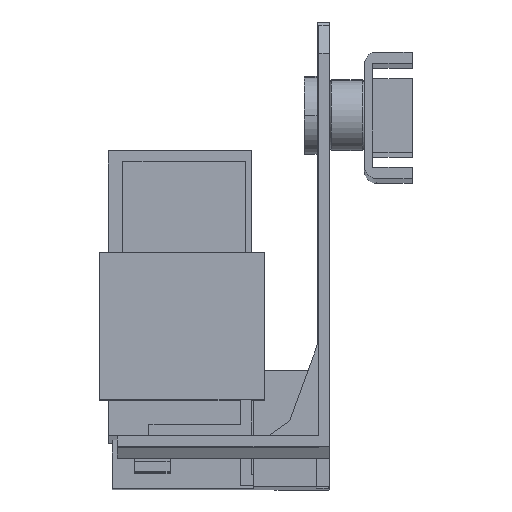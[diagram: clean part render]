
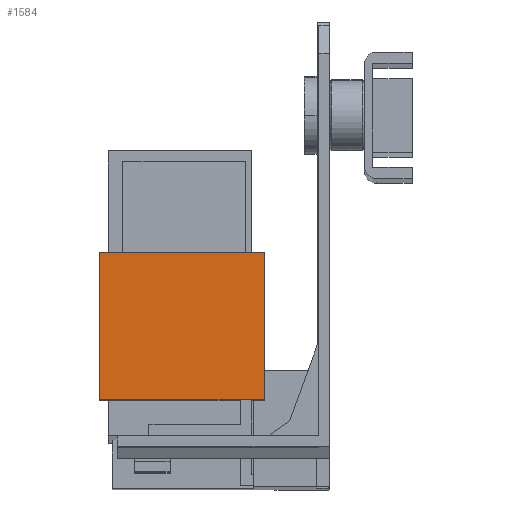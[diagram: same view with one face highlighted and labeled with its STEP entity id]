
A CAD part, front view. The second image highlights one B-rep face of the part: STEP entity #1584.
In plain terms, the highlighted planar face has unit normal (0, -1, 0.003).
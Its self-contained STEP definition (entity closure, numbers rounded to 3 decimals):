
#140 = AXIS2_PLACEMENT_3D ( 'NONE', #6418, #6424, #6425 ) ;
#1021 = EDGE_CURVE ( 'NONE', #7275, #9484, #8394, .T. ) ;
#1074 = EDGE_CURVE ( 'NONE', #9484, #9434, #8478, .T. ) ;
#1120 = EDGE_CURVE ( 'NONE', #9485, #9434, #8544, .T. ) ;
#1367 = EDGE_CURVE ( 'NONE', #7275, #9485, #3145, .T. ) ;
#1584 = ADVANCED_FACE ( 'NONE', ( #3524 ), #6415, .T. ) ;
#3145 = LINE ( 'NONE', #5681, #3148 ) ;
#3148 = VECTOR ( 'NONE', #5682, 1000. ) ;
#3524 = FACE_OUTER_BOUND ( 'NONE', #7638, .T. ) ;
#4968 = CARTESIAN_POINT ( 'NONE',  ( -9.3, -29.009, -40.322 ) ) ;
#4969 = DIRECTION ( 'NONE',  ( -1., 0., 0. ) ) ;
#5067 = CARTESIAN_POINT ( 'NONE',  ( -32.7, -29.009, -40.322 ) ) ;
#5068 = DIRECTION ( 'NONE',  ( 0., 0.003, 1. ) ) ;
#5169 = CARTESIAN_POINT ( 'NONE',  ( -9.3, -28.952, -19.322 ) ) ;
#5170 = DIRECTION ( 'NONE',  ( -1., 0., 0. ) ) ;
#5681 = CARTESIAN_POINT ( 'NONE',  ( -9.3, -29.009, -40.322 ) ) ;
#5682 = DIRECTION ( 'NONE',  ( 0., 0.003, 1. ) ) ;
#6415 = PLANE ( 'NONE',  #140 ) ;
#6418 = CARTESIAN_POINT ( 'NONE',  ( -9.3, -29.009, -40.322 ) ) ;
#6424 = DIRECTION ( 'NONE',  ( 0., -1., 0.003 ) ) ;
#6425 = DIRECTION ( 'NONE',  ( 1., 0., 0. ) ) ;
#6952 = CARTESIAN_POINT ( 'NONE',  ( -9.3, -29.009, -40.322 ) ) ;
#7140 = CARTESIAN_POINT ( 'NONE',  ( -32.7, -28.952, -19.322 ) ) ;
#7194 = CARTESIAN_POINT ( 'NONE',  ( -32.7, -29.009, -40.322 ) ) ;
#7195 = CARTESIAN_POINT ( 'NONE',  ( -9.3, -28.952, -19.322 ) ) ;
#7275 = VERTEX_POINT ( 'NONE', #6952 ) ;
#7638 = EDGE_LOOP ( 'NONE', ( #7754, #7755, #7756, #7757 ) ) ;
#7754 = ORIENTED_EDGE ( 'NONE', *, *, #1120, .T. ) ;
#7755 = ORIENTED_EDGE ( 'NONE', *, *, #1074, .F. ) ;
#7756 = ORIENTED_EDGE ( 'NONE', *, *, #1021, .F. ) ;
#7757 = ORIENTED_EDGE ( 'NONE', *, *, #1367, .T. ) ;
#8394 = LINE ( 'NONE', #4968, #8395 ) ;
#8395 = VECTOR ( 'NONE', #4969, 1000. ) ;
#8478 = LINE ( 'NONE', #5067, #8479 ) ;
#8479 = VECTOR ( 'NONE', #5068, 1000. ) ;
#8544 = LINE ( 'NONE', #5169, #8545 ) ;
#8545 = VECTOR ( 'NONE', #5170, 1000. ) ;
#9434 = VERTEX_POINT ( 'NONE', #7140 ) ;
#9484 = VERTEX_POINT ( 'NONE', #7194 ) ;
#9485 = VERTEX_POINT ( 'NONE', #7195 ) ;
